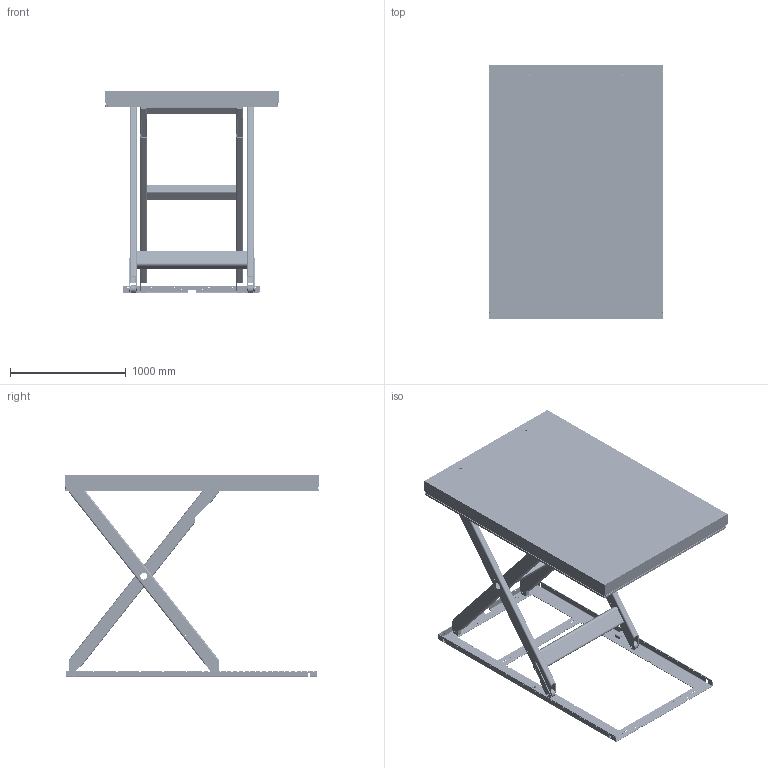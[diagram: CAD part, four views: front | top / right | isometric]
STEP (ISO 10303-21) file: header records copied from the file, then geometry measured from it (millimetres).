
FILE_DESCRIPTION(/* description */ ('Tvärförbindning med gavel'),/* implementation_level */ '2;1');
FILE_NAME(/* name */ '\\EDMOFILE01\Users$\JOHSO\Desktop\610969_Topp.stp',/* time_stamp */ '2015-10-20T08:47:13+02:00',/* author */ ('JOHSO'),/* organization */ (''),/* preprocessor_version */ 'ST-DEVELOPER v15.6',/* originating_system */ 'Autodesk Inventor 2015',/* authorisation */ '');
FILE_SCHEMA (('AUTOMOTIVE_DESIGN { 1 0 10303 214 3 1 1 }'));
Products named in the file (37): 514601-4; 514601-1_Höger; 514601-1_Vänster; 514601-2; 44870; 45259; 514600; 82159-2112; 606529; 80060-768; Copy of ISO 4019 - 80x40x4 - 768; 606522; 82159-2112_1; 603642; 82092-949; 606523; 601715; 45387; 80131; 41333-1600; 601716; 601719; 85955; 33048; 42289-1453; 42289-2173; 42330; 42331; 43481; ISO 4032 - M8ISO; 43476; 33990; 603399; 42508C; 35113-skel; 35113; 610969
Assembly tree (98 placements, depth 4):
  610969
    514600
      514601-4
      514601-1_Höger
      514601-1_Vänster
      514601-2  x2
      44870  x2
      45259  x2
    606522
      606529  x2
        82159-2112
      80060-768
      Copy of ISO 4019 - 80x40x4 - 768
    606523
      603642  x2
        82159-2112_1
      82092-949
    35113
      35113-skel
      601715
      45387  x12
      80131  x8
      41333-1600  x2
      601716  x2
      601719  x2
      45259  x2
      85955  x3
    33048  x2
    603399
      42289-1453  x2
      42289-2173  x2
      42330  x6
      42331  x4
      43481  x6
      ISO 4032 - M8ISO  x6
      43476  x4
      33990  x6
    42508C  x4
Bounding box: 1500 x 2200 x 1750 mm (x, y, z)
Volume: 55993931.3 mm3; surface area: 21874124.4 mm2
Topology: 90 solids, 115 shells, 11298 faces, 31443 edges, 20675 vertices
Faces by surface type: plane 5780, cylinder 3564, bspline 1416, cone 302, torus 188, sphere 48
Full cylindrical faces by diameter (mm): 0.474 x6, 1 x12, 3 x12, 3.141 x12, 3.2 x12, 4 x48, 4.3 x12, 4.9 x6, 5 x12, 5.2 x18, 5.3 x6, 5.55 x4, 6.647 x6, 7.4 x32, 7.6 x12, 8 x32, 8.5 x6, 10 x18, 10.2 x4, 10.5 x10, 11 x6, 11.63 x8, 12 x4, 12.5 x6, 13 x6, 13.835 x15, 14.5 x16, 16 x24, 18.8 x6, 19 x3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
Entity records: 109179 total; most frequent: CARTESIAN_POINT 26376, ORIENTED_EDGE 17062, DIRECTION 16434, EDGE_CURVE 8529, VERTEX_POINT 5729, AXIS2_PLACEMENT_3D 5581, LINE 5272, VECTOR 5272
